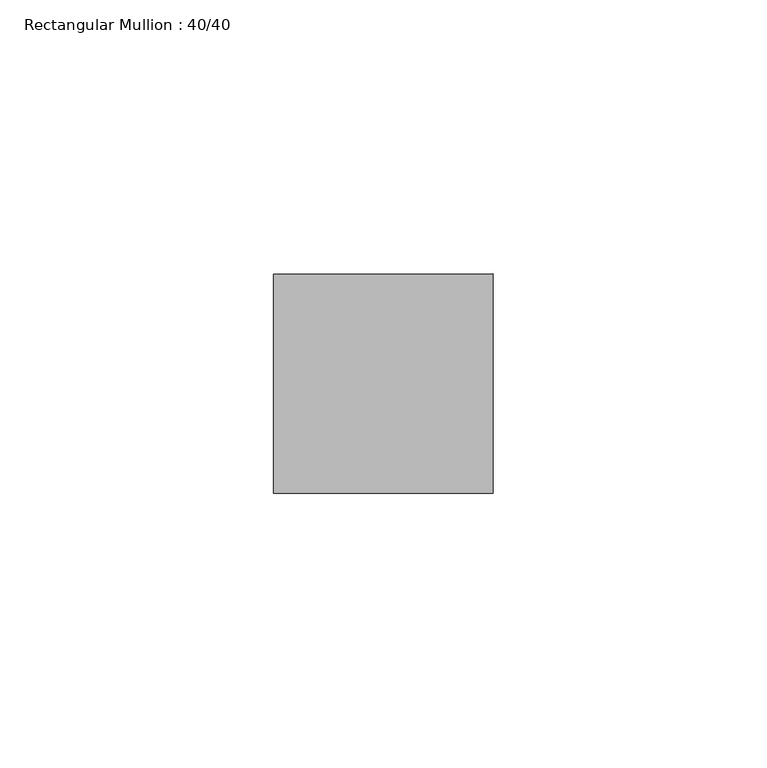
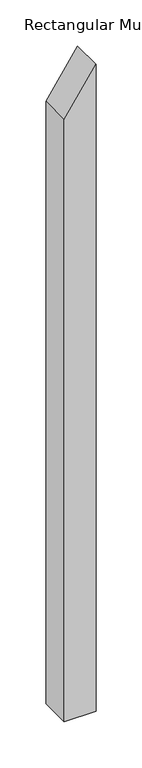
"""IFC4 building model written with IfcOpenShell, lengths in millimetres: member geometry, Rectangular Mullion : 40/40."""

from ifc_helpers import new_model, si_unit, frame, origin, place, context, project, spatial, polyline, outline, extrude, source, transform, mapped, element, save


def rectangular_mullion_40_40_ece98a2e(model_context):
    return source(origin(), model_context, "Body", "SweptSolid", [
        extrude(outline(polyline([(0.0, 0.0), (-59.2352256, -40.0), (-858.236703, -40.0), (-858.236703, 0.0), (0.0, 0.0)])), frame((0.0, -20.0, 0.0), z_axis=(0.0, 1.0, 0.0), x_axis=(0.0, 0.0, 1.0)), (0.0, 0.0, 1.0), 40.0),
    ])


if __name__ == "__main__":
    model = new_model("IFC4")
    model_context = context("Model", 3, world=origin())
    ifc_project = project(units=[si_unit("LENGTHUNIT", "METRE", prefix="MILLI")], contexts=[model_context])
    site = spatial("IfcSite", under=ifc_project)
    building = spatial("IfcBuilding", under=site)
    placement = place(None, origin())
    rectangular_mullion_40_40_shape = rectangular_mullion_40_40_ece98a2e(model_context)
    element("IfcMember", 1, ObjectType="Rectangular Mullion : 40/40", at=placement, inside=building, context=model_context, shape_type="MappedRepresentation", body=[
        mapped(rectangular_mullion_40_40_shape, transform((0.0, 0.0, 0.0), x_axis=(1.0, 0.0, 0.0), y_axis=(0.0, 1.0, 0.0), z_axis=(0.0, 0.0, 1.0))),
    ])
    save(model, "model.ifc")
